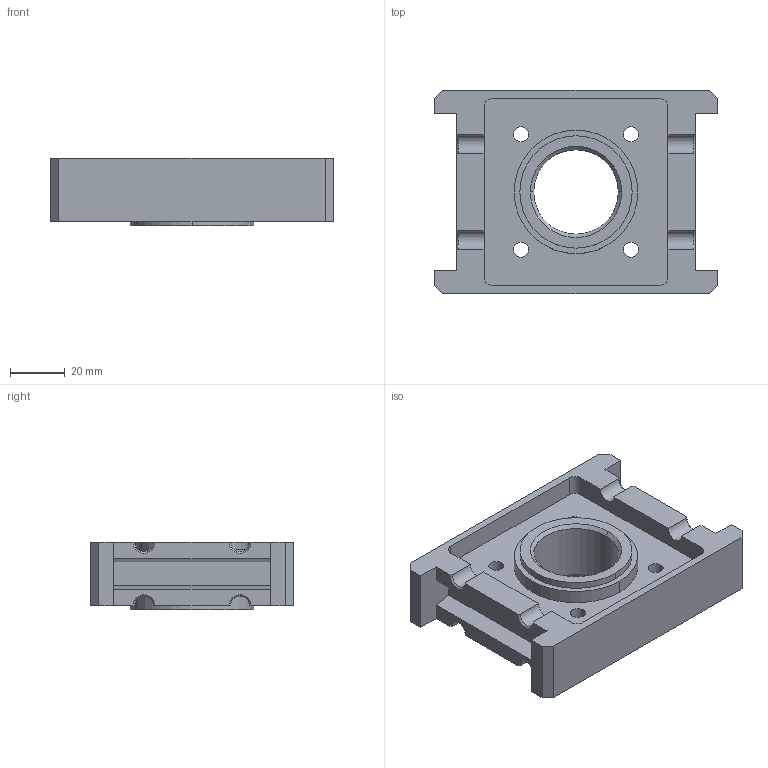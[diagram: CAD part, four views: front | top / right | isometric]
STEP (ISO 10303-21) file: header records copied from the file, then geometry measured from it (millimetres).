
FILE_DESCRIPTION((''),'2;1');
FILE_NAME('1827009591','2018-12-21T',('vol1hc'),(''),'CREO PARAMETRIC BY PTC INC, 2016260','CREO PARAMETRIC BY PTC INC, 2016260','');
FILE_SCHEMA(('CONFIG_CONTROL_DESIGN'));
Length unit declared in the file: millimetre
Products named in the file (1): 1827009591
Bounding box: 103 x 74 x 24.5 mm (x, y, z)
Volume: 81888.1 mm3; surface area: 31371.1 mm2
Topology: 1 solids, 1 shells, 95 faces, 260 edges, 172 vertices
Faces by surface type: plane 47, cylinder 36, cone 12
Entity records: 3104 total; most frequent: DIRECTION 534, CARTESIAN_POINT 527, ORIENTED_EDGE 520, EDGE_CURVE 260, AXIS2_PLACEMENT_3D 179, VECTOR 176, LINE 176, VERTEX_POINT 172
